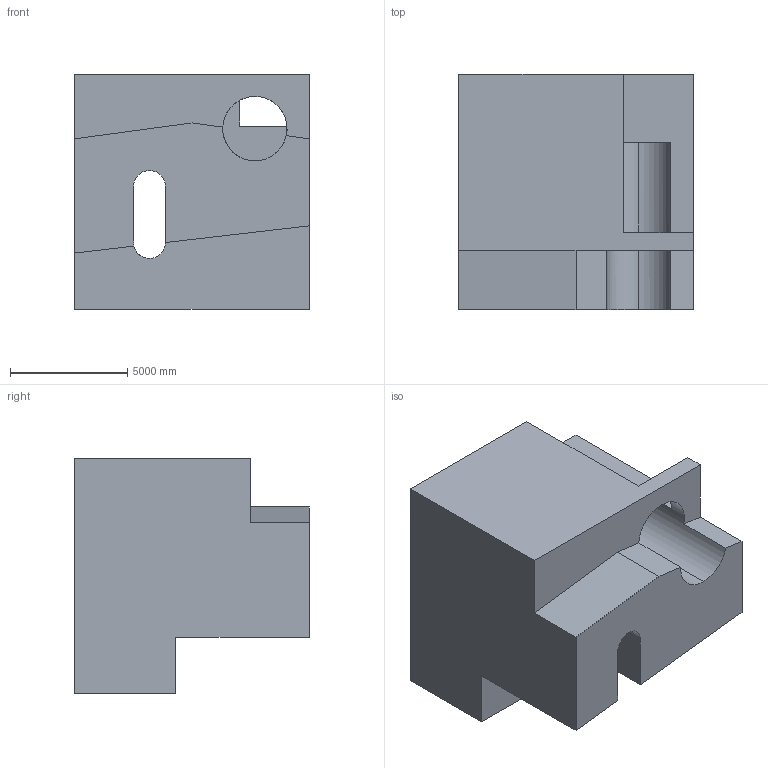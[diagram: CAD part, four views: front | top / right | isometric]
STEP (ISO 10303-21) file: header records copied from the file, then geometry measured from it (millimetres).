
FILE_DESCRIPTION (( 'STEP AP203' ), '1' );
FILE_NAME ('1582.STEP', '2022-08-18T15:57:04', ( 'user' ), ( '' ), 'SwSTEP 2.0', 'SolidWorks 2021', '' );
FILE_SCHEMA (( 'CONFIG_CONTROL_DESIGN' ));
Length unit declared in the file: centimetre
Products named in the file (1): 1582
Bounding box: 10000 x 10000 x 10000 mm (x, y, z)
Volume: 646956901136.5 mm3; surface area: 648949319.4 mm2
Topology: 1 solids, 1 shells, 31 faces, 92 edges, 61 vertices
Faces by surface type: plane 26, cylinder 5
Entity records: 1118 total; most frequent: CARTESIAN_POINT 185, ORIENTED_EDGE 184, DIRECTION 171, EDGE_CURVE 92, VECTOR 77, LINE 77, VERTEX_POINT 61, AXIS2_PLACEMENT_3D 47
